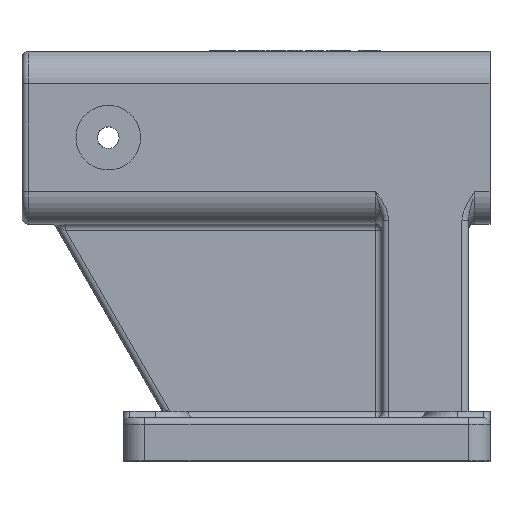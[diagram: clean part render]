
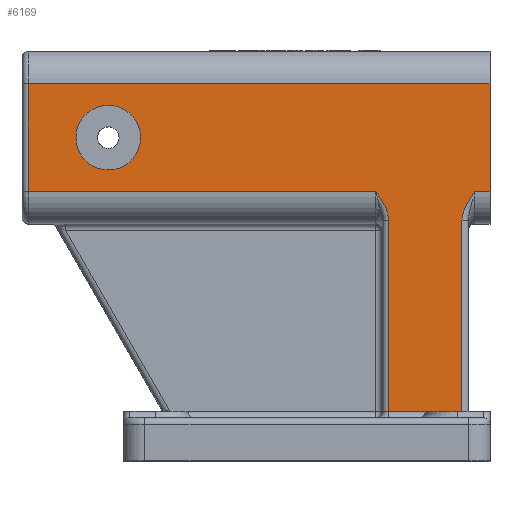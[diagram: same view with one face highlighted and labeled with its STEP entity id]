
A CAD part, top view. The second image highlights one B-rep face of the part: STEP entity #6169.
In plain terms, the highlighted planar face has unit normal (0, 0, 1).
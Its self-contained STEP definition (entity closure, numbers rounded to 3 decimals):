
#184=CIRCLE('',#6483,15.);
#321=FACE_BOUND('',#1056,.T.);
#683=FACE_OUTER_BOUND('',#1055,.T.);
#1055=EDGE_LOOP('',(#5343,#5344,#5345,#5346,#5347,#5348,#5349,#5350,#5351,
#5352));
#1056=EDGE_LOOP('',(#5353));
#1602=LINE('',#10449,#2162);
#1617=LINE('',#10603,#2177);
#1641=LINE('',#10910,#2201);
#1642=LINE('',#10912,#2202);
#1643=LINE('',#10914,#2203);
#1644=LINE('',#10916,#2204);
#1645=LINE('',#10918,#2205);
#1646=LINE('',#10932,#2206);
#2162=VECTOR('',#7660,10.);
#2177=VECTOR('',#7749,10.);
#2201=VECTOR('',#7811,10.);
#2202=VECTOR('',#7812,10.);
#2203=VECTOR('',#7813,10.);
#2204=VECTOR('',#7814,10.);
#2205=VECTOR('',#7815,10.);
#2206=VECTOR('',#7816,10.);
#2430=B_SPLINE_CURVE_WITH_KNOTS('',3,(#10898,#10899,#10900,#10901,#10902,
#10903,#10904,#10905,#10906,#10907),.UNSPECIFIED.,.F.,.F.,(4,2,1,1,1,1,
4),(-0.002,0.,0.297,0.595,0.892,
1.189,1.487),.UNSPECIFIED.);
#2431=B_SPLINE_CURVE_WITH_KNOTS('',3,(#10920,#10921,#10922,#10923,#10924,
#10925,#10926,#10927,#10928,#10929,#10930,#10931),.UNSPECIFIED.,.F.,.F.,
(4,1,1,1,1,1,1,2,4),(0.,0.297,0.446,
0.595,0.743,0.892,1.189,
1.487,1.488),.UNSPECIFIED.);
#2881=VERTEX_POINT('',#10301);
#2906=VERTEX_POINT('',#10441);
#2908=VERTEX_POINT('',#10447);
#2932=VERTEX_POINT('',#10601);
#2957=VERTEX_POINT('',#10887);
#2958=VERTEX_POINT('',#10909);
#2959=VERTEX_POINT('',#10911);
#2960=VERTEX_POINT('',#10913);
#2961=VERTEX_POINT('',#10915);
#2962=VERTEX_POINT('',#10917);
#2963=VERTEX_POINT('',#10919);
#3672=EDGE_CURVE('',#2881,#2881,#184,.T.);
#3708=EDGE_CURVE('',#2908,#2906,#1602,.T.);
#3748=EDGE_CURVE('',#2932,#2908,#1617,.T.);
#3787=EDGE_CURVE('',#2957,#2932,#2430,.T.);
#3788=EDGE_CURVE('',#2958,#2957,#1641,.T.);
#3789=EDGE_CURVE('',#2959,#2958,#1642,.T.);
#3790=EDGE_CURVE('',#2959,#2960,#1643,.T.);
#3791=EDGE_CURVE('',#2961,#2960,#1644,.T.);
#3792=EDGE_CURVE('',#2962,#2961,#1645,.T.);
#3793=EDGE_CURVE('',#2963,#2962,#2431,.T.);
#3794=EDGE_CURVE('',#2906,#2963,#1646,.T.);
#5343=ORIENTED_EDGE('',*,*,#3708,.F.);
#5344=ORIENTED_EDGE('',*,*,#3748,.F.);
#5345=ORIENTED_EDGE('',*,*,#3787,.F.);
#5346=ORIENTED_EDGE('',*,*,#3788,.F.);
#5347=ORIENTED_EDGE('',*,*,#3789,.F.);
#5348=ORIENTED_EDGE('',*,*,#3790,.T.);
#5349=ORIENTED_EDGE('',*,*,#3791,.F.);
#5350=ORIENTED_EDGE('',*,*,#3792,.F.);
#5351=ORIENTED_EDGE('',*,*,#3793,.F.);
#5352=ORIENTED_EDGE('',*,*,#3794,.F.);
#5353=ORIENTED_EDGE('',*,*,#3672,.T.);
#5874=PLANE('',#6570);
#6169=ADVANCED_FACE('',(#683,#321),#5874,.T.);
#6483=AXIS2_PLACEMENT_3D('',#10302,#7582,#7583);
#6570=AXIS2_PLACEMENT_3D('',#10908,#7809,#7810);
#7582=DIRECTION('center_axis',(0.,0.,-1.));
#7583=DIRECTION('ref_axis',(1.,0.,0.));
#7660=DIRECTION('',(-1.,0.,0.));
#7749=DIRECTION('',(0.,-1.,0.));
#7809=DIRECTION('center_axis',(0.,0.,1.));
#7810=DIRECTION('ref_axis',(0.,1.,0.));
#7811=DIRECTION('',(-1.,0.,0.));
#7812=DIRECTION('',(0.,-1.,0.));
#7813=DIRECTION('',(-1.,0.,0.));
#7814=DIRECTION('',(0.,1.,0.));
#7815=DIRECTION('',(-1.,0.,0.));
#7816=DIRECTION('',(0.,1.,0.));
#10301=CARTESIAN_POINT('',(-192.,0.,40.));
#10302=CARTESIAN_POINT('Origin',(-177.,0.,40.));
#10441=CARTESIAN_POINT('',(-47.,-127.,40.));
#10447=CARTESIAN_POINT('',(-13.,-127.,40.));
#10449=CARTESIAN_POINT('',(0.,-127.,40.));
#10601=CARTESIAN_POINT('',(-13.,-38.416,40.));
#10603=CARTESIAN_POINT('',(-13.,-77.5,40.));
#10887=CARTESIAN_POINT('',(-7.,-25.,40.));
#10898=CARTESIAN_POINT('Ctrl Pts',(-7.,-25.,40.));
#10899=CARTESIAN_POINT('Ctrl Pts',(-7.003,-25.004,40.));
#10900=CARTESIAN_POINT('Ctrl Pts',(-7.006,-25.008,
40.));
#10901=CARTESIAN_POINT('Ctrl Pts',(-7.581,-25.822,
40.));
#10902=CARTESIAN_POINT('Ctrl Pts',(-8.734,-27.452,
40.));
#10903=CARTESIAN_POINT('Ctrl Pts',(-10.356,-29.978,
40.));
#10904=CARTESIAN_POINT('Ctrl Pts',(-11.729,-32.615,
40.));
#10905=CARTESIAN_POINT('Ctrl Pts',(-12.724,-35.429,40.));
#10906=CARTESIAN_POINT('Ctrl Pts',(-13.,-37.425,40.));
#10907=CARTESIAN_POINT('Ctrl Pts',(-13.,-38.416,40.));
#10908=CARTESIAN_POINT('Origin',(0.,-25.,40.));
#10909=CARTESIAN_POINT('',(0.,-25.,40.));
#10910=CARTESIAN_POINT('',(0.,-25.,40.));
#10911=CARTESIAN_POINT('',(0.,25.,40.));
#10912=CARTESIAN_POINT('',(0.,25.,40.));
#10913=CARTESIAN_POINT('',(-214.,25.,40.));
#10914=CARTESIAN_POINT('',(0.,25.,40.));
#10915=CARTESIAN_POINT('',(-214.,-25.,40.));
#10916=CARTESIAN_POINT('',(-214.,-12.5,40.));
#10917=CARTESIAN_POINT('',(-53.,-25.,40.));
#10918=CARTESIAN_POINT('',(0.,-25.,40.));
#10919=CARTESIAN_POINT('',(-47.,-38.416,40.));
#10920=CARTESIAN_POINT('Ctrl Pts',(-47.,-38.416,40.));
#10921=CARTESIAN_POINT('Ctrl Pts',(-47.,-37.425,40.));
#10922=CARTESIAN_POINT('Ctrl Pts',(-47.206,-35.931,
40.));
#10923=CARTESIAN_POINT('Ctrl Pts',(-47.775,-34.02,40.));
#10924=CARTESIAN_POINT('Ctrl Pts',(-48.317,-32.64,
40.));
#10925=CARTESIAN_POINT('Ctrl Pts',(-48.957,-31.298,40.));
#10926=CARTESIAN_POINT('Ctrl Pts',(-49.914,-29.557,
40.));
#10927=CARTESIAN_POINT('Ctrl Pts',(-51.265,-27.453,
40.));
#10928=CARTESIAN_POINT('Ctrl Pts',(-52.419,-25.822,
40.));
#10929=CARTESIAN_POINT('Ctrl Pts',(-52.994,-25.008,
40.));
#10930=CARTESIAN_POINT('Ctrl Pts',(-52.997,-25.004,
40.));
#10931=CARTESIAN_POINT('Ctrl Pts',(-53.,-25.,40.));
#10932=CARTESIAN_POINT('',(-47.,-77.5,40.));
